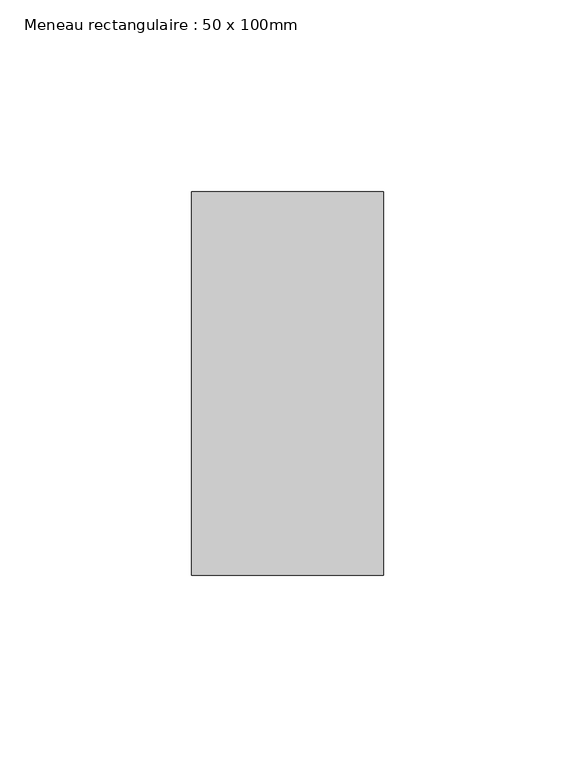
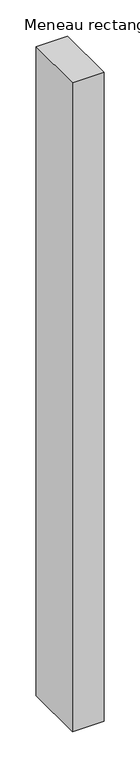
"""IFC4 building model written with IfcOpenShell, lengths in millimetres: member geometry, Meneau rectangulaire : 50 x 100mm."""

from ifc_helpers import new_model, si_unit, frame, origin, place, context, project, spatial, polyline, outline, extrude, source, transform, mapped, element, save


def meneau_rectangulaire_50_x_100mm_b5018dc8(model_context):
    return source(origin(), model_context, "Body", "SweptSolid", [
        extrude(outline(polyline([(0.0, 50.0), (0.0, -50.0), (-50.0, -50.0), (-50.0, 50.0), (0.0, 50.0)])), frame((0.0, 0.0, -1090.36452), z_axis=(0.0, 0.0, 1.0), x_axis=(1.0, 0.0, 0.0)), (0.0, 0.0, 1.0), 1090.36452),
    ])


if __name__ == "__main__":
    model = new_model("IFC4")
    model_context = context("Model", 3, world=origin())
    ifc_project = project(units=[si_unit("LENGTHUNIT", "METRE", prefix="MILLI")], contexts=[model_context])
    site = spatial("IfcSite", under=ifc_project)
    building = spatial("IfcBuilding", under=site)
    placement = place(None, origin())
    meneau_rectangulaire_50_x_100mm_shape = meneau_rectangulaire_50_x_100mm_b5018dc8(model_context)
    element("IfcMember", 1, ObjectType="Meneau rectangulaire : 50 x 100mm", at=placement, inside=building, context=model_context, shape_type="MappedRepresentation", body=[
        mapped(meneau_rectangulaire_50_x_100mm_shape, transform((0.0, 0.0, 0.0), x_axis=(1.0, 0.0, 0.0), y_axis=(0.0, 1.0, 0.0), z_axis=(0.0, 0.0, 1.0))),
    ])
    save(model, "model.ifc")
